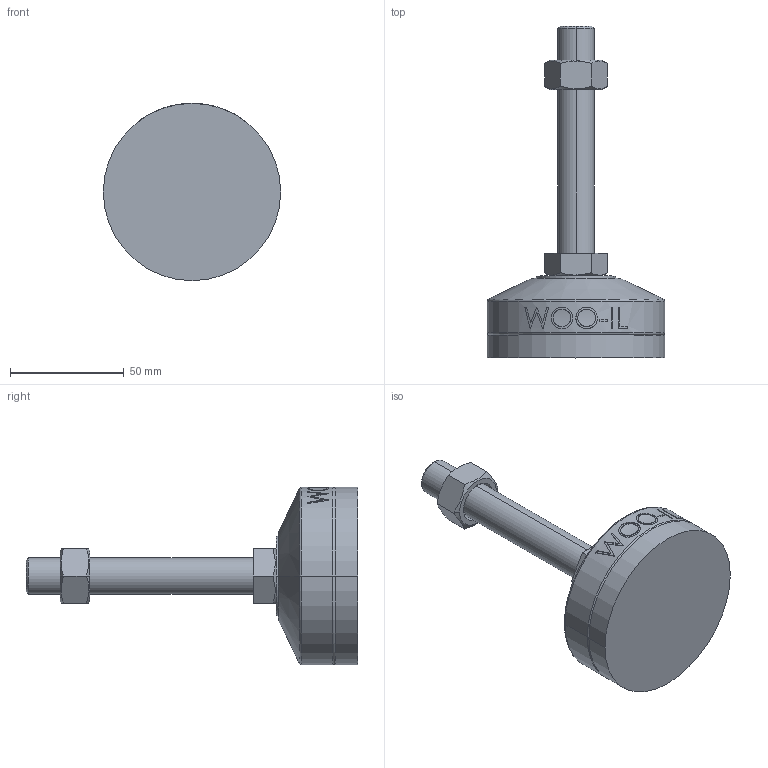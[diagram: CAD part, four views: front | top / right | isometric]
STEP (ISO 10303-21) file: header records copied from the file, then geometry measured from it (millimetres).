
FILE_DESCRIPTION (( 'STEP AP214' ), '1' );
FILE_NAME ('MFZR78-M16-100.step', '2021-03-29T06:57:28', ( '' ), ( '' ), 'SwSTEP 2.0', 'SolidWorks 2019', '' );
FILE_SCHEMA (( 'AUTOMOTIVE_DESIGN' ));
Length unit declared in the file: millimetre
Products named in the file (2): MFZR78-M16-100
Bounding box: 78 x 146 x 78 mm (x, y, z)
Volume: 177968.5 mm3; surface area: 34738 mm2
Topology: 4 solids, 4 shells, 103 faces, 235 edges, 150 vertices
Faces by surface type: plane 49, cylinder 18, bspline 16, cone 14, torus 6
Entity records: 4499 total; most frequent: CARTESIAN_POINT 2226, ORIENTED_EDGE 470, DIRECTION 417, EDGE_CURVE 235, AXIS2_PLACEMENT_3D 159, VERTEX_POINT 150, EDGE_LOOP 115, FACE_OUTER_BOUND 103
